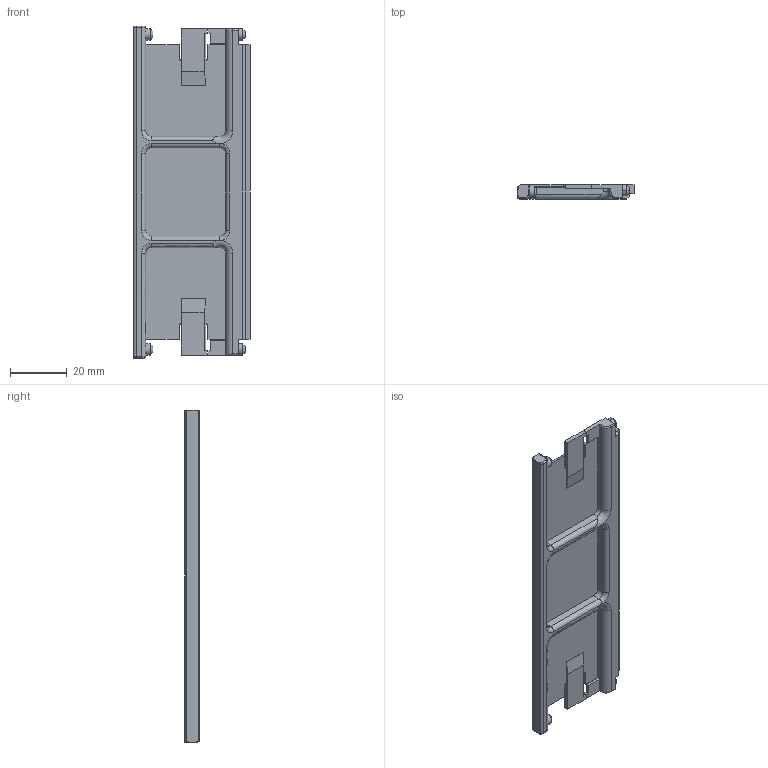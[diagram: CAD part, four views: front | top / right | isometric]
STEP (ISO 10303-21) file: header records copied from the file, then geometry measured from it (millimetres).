
FILE_DESCRIPTION((''),'2;1');
FILE_NAME('C:\Uebbing\PARAMETERKETTEN\KOLIBRI\Kol_65_135_1\Kol_65_135_1 Klappsteg.stp','2011-11-02T15:09:27',('Uebbing'),(''),'Autodesk Inventor 10','Autodesk Inventor 10','');
FILE_SCHEMA(('AUTOMOTIVE_DESIGN { 1 0 10303 214 1 1 1 1 }'));
Length unit declared in the file: millimetre
Products named in the file (1): Kol_65_135_1 Klappsteg
Bounding box: 40.75 x 5 x 116.6 mm (x, y, z)
Volume: 10218.2 mm3; surface area: 11438.7 mm2
Topology: 1 solids, 1 shells, 143 faces, 381 edges, 240 vertices
Faces by surface type: bspline 64, plane 46, cylinder 21, torus 9, cone 3
Full cylindrical faces by diameter (mm): 4 x1
Entity records: 5010 total; most frequent: CARTESIAN_POINT 1652, ORIENTED_EDGE 750, DIRECTION 617, EDGE_CURVE 375, VECTOR 249, LINE 249, VERTEX_POINT 238, AXIS2_PLACEMENT_3D 184
